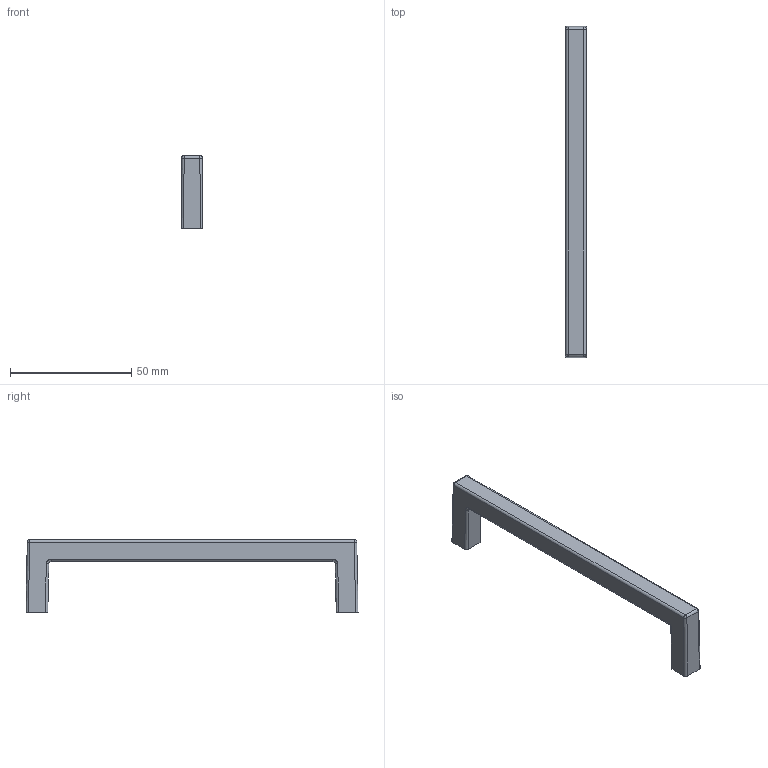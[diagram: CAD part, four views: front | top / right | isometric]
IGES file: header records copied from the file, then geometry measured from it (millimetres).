
Start section: C
Global section: file name: 8137-137.igs; native system: By Siemens PLM Incorporated; preprocessor: XPlus GENERIC/IGES 16.0.42; author: Author; organization: Title; date: 20210505.122956; units: millimetre
Bounding box: 9 x 137 x 30 mm (x, y, z)
Surface area: 6814.4 mm2 (no closed solid volume)
Topology: 0 solids, 0 shells, 212 faces, 1320 edges, 1316 vertices
Faces by surface type: bspline 212
